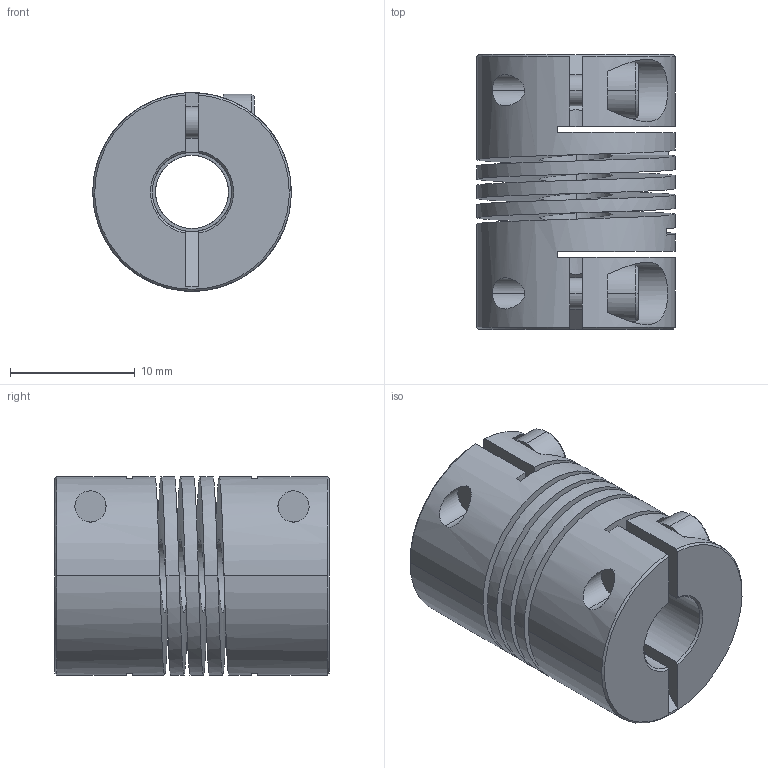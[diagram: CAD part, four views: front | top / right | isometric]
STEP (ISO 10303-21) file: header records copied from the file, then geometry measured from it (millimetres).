
FILE_DESCRIPTION((''),'2;1');
FILE_NAME('827_16','2006-12-06T',('Gary Melling'),(''),'PRO/ENGINEER BY PARAMETRIC TECHNOLOGY CORPORATION, 2006240','PRO/ENGINEER BY PARAMETRIC TECHNOLOGY CORPORATION, 2006240','');
FILE_SCHEMA(('CONFIG_CONTROL_DESIGN'));
Length unit declared in the file: millimetre
Products named in the file (1): 827_16
Bounding box: 15.9 x 22 x 15.9 mm (x, y, z)
Volume: 3137.8 mm3; surface area: 3765.9 mm2
Topology: 1 solids, 1 shells, 99 faces, 271 edges, 178 vertices
Faces by surface type: plane 48, cylinder 37, cone 10, bspline 4
Entity records: 4513 total; most frequent: CARTESIAN_POINT 2012, ORIENTED_EDGE 542, DIRECTION 469, EDGE_CURVE 271, VERTEX_POINT 178, AXIS2_PLACEMENT_3D 165, VECTOR 139, LINE 139
